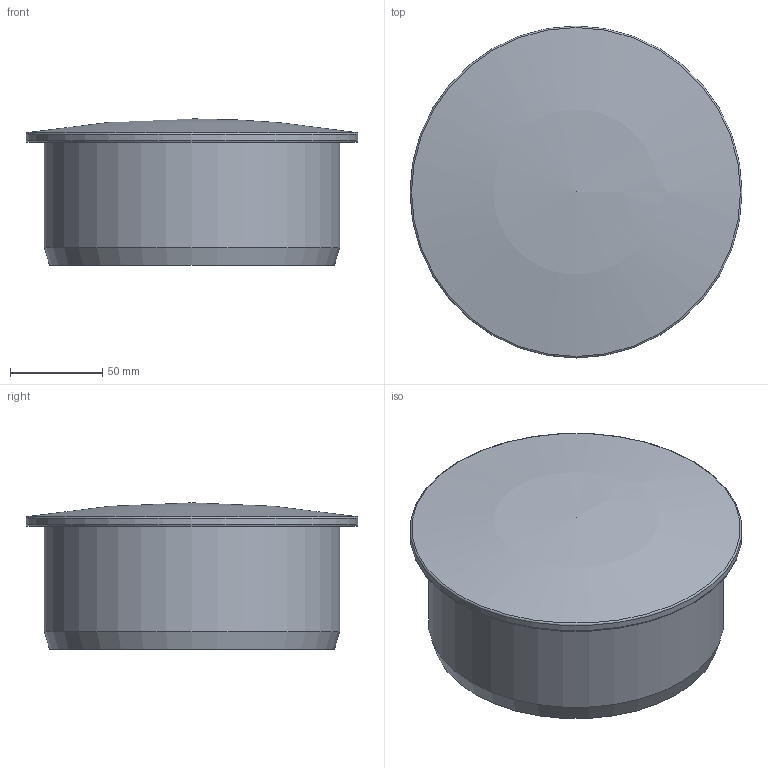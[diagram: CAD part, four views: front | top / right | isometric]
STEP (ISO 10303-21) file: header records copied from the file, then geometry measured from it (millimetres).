
FILE_DESCRIPTION(/* description */ (''),/* implementation_level */ '2;1');
FILE_NAME(/* name */ 'H:\Geberit-Teile\Export\Muffenstopfen ART\stp\390728.stp',/* time_stamp */ '2014-04-16T16:40:44+02:00',/* author */ ('seihe2'),/* organization */ (''),/* preprocessor_version */ 'ST-DEVELOPER v15.2',/* originating_system */ 'Autodesk Inventor 2014',/* authorisation */ '');
FILE_SCHEMA (('AUTOMOTIVE_DESIGN { 1 0 10303 214 3 1 1 }'));
Length unit declared in the file: millimetre
Products named in the file (1): 390728
Bounding box: 180 x 180 x 79.3 mm (x, y, z)
Volume: 303245.5 mm3; surface area: 118247.4 mm2
Topology: 1 solids, 1 shells, 10 faces, 21 edges, 13 vertices
Faces by surface type: cylinder 3, sphere 2, torus 2, plane 2, cone 1
Full cylindrical faces by diameter (mm): 149.85 x1, 160.25 x1, 180 x1
Entity records: 225 total; most frequent: DIRECTION 40, CARTESIAN_POINT 29, AXIS2_PLACEMENT_3D 20, EDGE_LOOP 18, ORIENTED_EDGE 18, STYLED_ITEM 11, FACE_OUTER_BOUND 10, ADVANCED_FACE 10
